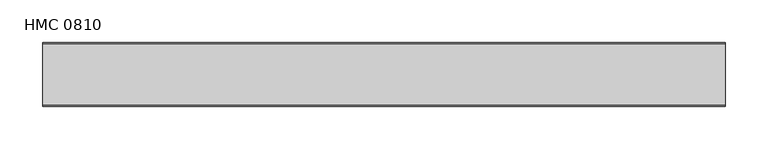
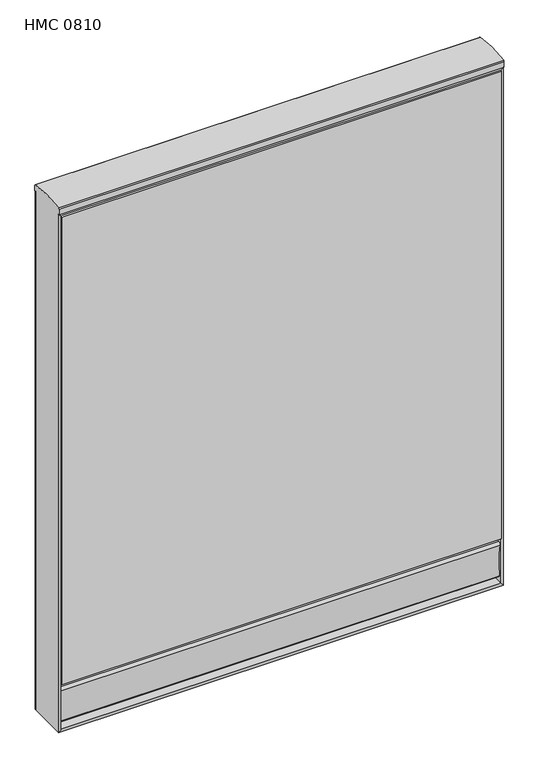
"""IFC4 building model written with IfcOpenShell, lengths in millimetres: furniture geometry, Mobiliário_MobiliáriodeEscritório_LinhaHabitat_PainelHabitatCego-Melamina_Marelli : HMC 0810."""

from ifc_helpers import new_model, si_unit, point, frame, frame_2d, origin, place, context, project, spatial, polyline, circle_curve, ellipse_curve, trimmed, segment, composite_curve, outline, extrude, source, transform, mapped, element, save
from ifc_brep_helpers import plane_surface, cylinder_surface, advanced_brep


def hmc_0810_8c3ba47c(model_context):
    return source(origin(), model_context, "Body", "SolidModel", [
        extrude(outline(composite_curve([segment(polyline([(55.0, 90.0), (55.0, 80.0), (65.980067, 80.0)]), True, "CONTINUOUS"), segment(trimmed(circle_curve(frame_2d((65.980067, 75.980067)), 4.019933), [point((65.980067, 80.0))], [point((69.831007, 74.8267575))], False, "CARTESIAN"), True, "CONTINUOUS"), segment(trimmed(circle_curve(frame_2d((200.7096213, 43.9493843)), 134.4716471), [point((69.831007, 74.8267575))], [point((68.9861321, 16.9022723))], True, "CARTESIAN"), True, "CONTINUOUS"), segment(trimmed(circle_curve(frame_2d((67.0270055, 16.5)), 2.0), [point((68.9861321, 16.9022723))], [point((67.0270055, 14.5))], False, "CARTESIAN"), True, "CONTINUOUS"), segment(polyline([(67.0270055, 14.5), (55.0, 14.5), (55.0, 4.5), (20.0, 4.5), (20.0, 14.5), (7.9729945, 14.5)]), True, "CONTINUOUS"), segment(trimmed(circle_curve(frame_2d((7.9729945, 16.5)), 2.0), [point((7.9729945, 14.5))], [point((6.0138679, 16.9022723))], False, "CARTESIAN"), True, "CONTINUOUS"), segment(trimmed(circle_curve(frame_2d((-125.7096213, 43.9493843)), 134.4716471), [point((6.0138679, 16.9022723))], [point((5.168993, 74.8267575))], True, "CARTESIAN"), True, "CONTINUOUS"), segment(trimmed(circle_curve(frame_2d((9.019933, 75.980067)), 4.019933), [point((5.168993, 74.8267575))], [point((9.019933, 80.0))], False, "CARTESIAN"), True, "CONTINUOUS"), segment(polyline([(9.019933, 80.0), (20.0, 80.0), (20.0, 90.0), (55.0, 90.0)]), True, "CONTINUOUS")], self_intersect=False)), frame((4.5, 0.0, 0.0), z_axis=(1.0, 0.0, 0.0), x_axis=(0.0, 1.0, 0.0)), (0.0, 0.0, 1.0), 791.0),
        advanced_brep(
        [(0.0, 0.0, 984.4135569), (0.0, 0.0, 994.184829), (0.0, 1.4147018, 996.2946718), (0.0, 73.7415241, 996.2666026), (0.0, 75.0, 994.2721511), (0.0, 75.0, 984.4135569), (0.0, 72.75, 984.4135569), (0.0, 72.75, 0.0), (0.0, 2.25, 0.0), (0.0, 2.25, 984.4135569), (800.0, 75.0, 984.4135569), (800.0, 75.0, 994.2721511), (800.0, 73.7415241, 996.2666026), (800.0, 1.4147018, 996.2946718), (800.0, 0.0, 994.184829), (800.0, 0.0, 984.4135569), (800.0, 2.25, 984.4135569), (800.0, 2.25, 0.0), (800.0, 72.75, 0.0), (800.0, 72.75, 984.4135569), (4.5, 72.75, 4.5), (795.5, 72.75, 4.5), (795.5, 2.25, 4.5), (4.5, 2.25, 4.5), (795.5, 72.75, 979.9135569), (795.5, 2.25, 979.9135569), (4.5, 72.75, 979.9135569), (4.5, 2.25, 979.9135569)],
        [
            (0, 1),
            (1, 2, circle_curve(frame((0.0, 2.2806283, 994.184829), z_axis=(-1.0, 0.0, 0.0), x_axis=(0.0, 1.0, 0.0)), 2.2806283)),
            (2, 3, circle_curve(frame((0.0, 37.5106051, 822.3310283), z_axis=(-1.0, 0.0, 0.0), x_axis=(0.0, 1.0, 0.0)), 177.6689717)),
            (3, 4, circle_curve(frame((0.0, 72.7903437, 994.2721511), z_axis=(-1.0, 0.0, 0.0), x_axis=(0.0, 1.0, 0.0)), 2.2096563)),
            (4, 5),
            (5, 6),
            (6, 7),
            (7, 8),
            (8, 9),
            (9, 0),
            (10, 11),
            (11, 12, circle_curve(frame((800.0, 72.7903437, 994.2721511), z_axis=(1.0, 0.0, 0.0), x_axis=(0.0, 1.0, 0.0)), 2.2096563)),
            (12, 13, circle_curve(frame((800.0, 37.5106051, 822.3310283), z_axis=(1.0, 0.0, 0.0), x_axis=(0.0, 1.0, 0.0)), 177.6689717)),
            (13, 14, circle_curve(frame((800.0, 2.2806283, 994.184829), z_axis=(1.0, 0.0, 0.0), x_axis=(0.0, 1.0, 0.0)), 2.2806283)),
            (14, 15),
            (15, 16),
            (16, 17),
            (17, 18),
            (18, 19),
            (19, 10),
            (4, 11),
            (10, 5),
            (3, 12),
            (2, 13),
            (1, 14),
            (0, 15),
            (19, 6),
            (9, 16),
            (7, 20, ellipse_curve(frame((2.25, 72.75, 2.25), z_axis=(0.7071067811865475, 0.0, -0.7071067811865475), x_axis=(-0.7071067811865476, 0.0, -0.7071067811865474)), 3.1819805, 2.25)),
            (20, 21),
            (21, 18, ellipse_curve(frame((797.75, 72.75, 2.25), z_axis=(-0.7071067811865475, 0.0, -0.7071067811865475), x_axis=(-0.7071067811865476, 0.0, 0.7071067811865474)), 3.1819805, 2.25)),
            (18, 7),
            (17, 8),
            (17, 22, ellipse_curve(frame((797.75, 2.25, 2.25), z_axis=(-0.7071067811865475, 0.0, -0.7071067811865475), x_axis=(-0.7071067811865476, 0.0, 0.7071067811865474)), 3.1819805, 2.25)),
            (22, 23),
            (23, 8, ellipse_curve(frame((2.25, 2.25, 2.25), z_axis=(0.7071067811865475, 0.0, -0.7071067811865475), x_axis=(-0.7071067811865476, 0.0, -0.7071067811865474)), 3.1819805, 2.25)),
            (20, 23),
            (22, 21),
            (21, 24),
            (24, 19, ellipse_curve(frame((797.75, 72.75, 982.1635569), z_axis=(0.7071067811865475, 0.0, -0.7071067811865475), x_axis=(-0.7071067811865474, 0.0, -0.7071067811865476)), 3.1819805, 2.25)),
            (16, 25, ellipse_curve(frame((797.75, 2.25, 982.1635569), z_axis=(0.7071067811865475, 0.0, -0.7071067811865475), x_axis=(-0.7071067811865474, 0.0, -0.7071067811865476)), 3.1819805, 2.25)),
            (25, 22),
            (25, 24),
            (24, 26),
            (26, 6, ellipse_curve(frame((2.25, 72.75, 982.1635569), z_axis=(0.7071067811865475, 0.0, 0.7071067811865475), x_axis=(0.7071067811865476, 0.0, -0.7071067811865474)), 3.1819805, 2.25)),
            (9, 27, ellipse_curve(frame((2.25, 2.25, 982.1635569), z_axis=(0.7071067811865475, 0.0, 0.7071067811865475), x_axis=(0.7071067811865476, 0.0, -0.7071067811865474)), 3.1819805, 2.25)),
            (27, 25),
            (27, 26),
            (26, 20),
            (23, 27),
        ],
        [
            plane_surface(frame((0.0, 75.0, 994.2721511), z_axis=(-1.0, 0.0, 0.0), x_axis=(0.0, 0.0, -1.0))),
            plane_surface(frame((800.0, 75.0, 994.2721511), z_axis=(1.0, 0.0, 0.0), x_axis=(0.0, 0.0, 1.0))),
            plane_surface(frame((800.0, 75.0, 984.4135569), z_axis=(0.0, 1.0, 0.0), x_axis=(-1.0, 0.0, 0.0))),
            cylinder_surface(frame((0.0, 72.7903437, 994.2721511), z_axis=(1.0, 0.0, 0.0), x_axis=(0.0, 1.0, 0.0)), 2.2096563),
            cylinder_surface(frame((0.0, 37.5106051, 822.3310283), z_axis=(1.0, 0.0, 0.0), x_axis=(0.0, 1.0, 0.0)), 177.6689717),
            cylinder_surface(frame((0.0, 2.2806283, 994.184829), z_axis=(1.0, 0.0, 0.0), x_axis=(0.0, 1.0, 0.0)), 2.2806283),
            plane_surface(frame((800.0, 0.0, 994.184829), z_axis=(0.0, -1.0, 0.0), x_axis=(-1.0, 0.0, 0.0))),
            plane_surface(frame((800.0, 0.0, 984.4135569), z_axis=(0.0, 0.0, -1.0), x_axis=(-1.0, 0.0, 0.0))),
            cylinder_surface(frame((0.0, 72.75, 2.25), z_axis=(-1.0, 0.0, 0.0), x_axis=(0.0, -1.0, 0.0)), 2.25),
            plane_surface(frame((0.0, 72.75, 0.0), z_axis=(0.0, 0.0, -1.0), x_axis=(1.0, 0.0, 0.0))),
            cylinder_surface(frame((0.0, 2.25, 2.25), z_axis=(-1.0, 0.0, 0.0), x_axis=(0.0, -1.0, 0.0)), 2.25),
            plane_surface(frame((4.5, 2.25, 4.5), z_axis=(0.0, 0.0, 1.0), x_axis=(1.0, 0.0, 0.0))),
            cylinder_surface(frame((797.75, 72.75, 0.0), z_axis=(0.0, 0.0, -1.0), x_axis=(0.0, -1.0, 0.0)), 2.25),
            cylinder_surface(frame((797.75, 2.25, 0.0), z_axis=(0.0, 0.0, -1.0), x_axis=(0.0, -1.0, 0.0)), 2.25),
            plane_surface(frame((795.5, 2.25, 4.5), z_axis=(-1.0, 0.0, 0.0), x_axis=(0.0, 0.0, 1.0))),
            cylinder_surface(frame((800.0, 72.75, 982.1635569), z_axis=(1.0, 0.0, 0.0), x_axis=(0.0, -1.0, 0.0)), 2.25),
            cylinder_surface(frame((800.0, 2.25, 982.1635569), z_axis=(1.0, 0.0, 0.0), x_axis=(0.0, -1.0, 0.0)), 2.25),
            plane_surface(frame((795.5, 2.25, 979.9135569), z_axis=(0.0, 0.0, -1.0), x_axis=(-1.0, 0.0, 0.0))),
            cylinder_surface(frame((2.25, 72.75, 984.4135569), z_axis=(0.0, 0.0, 1.0), x_axis=(0.0, -1.0, 0.0)), 2.25),
            cylinder_surface(frame((2.25, 2.25, 984.4135569), z_axis=(0.0, 0.0, 1.0), x_axis=(0.0, -1.0, 0.0)), 2.25),
            plane_surface(frame((4.5, 2.25, 979.9135569), z_axis=(1.0, 0.0, 0.0), x_axis=(0.0, 0.0, -1.0))),
        ],
        [
            (0, [[1, 2, 3, 4, 5, 6, 7, 8, 9, 10]]),
            (1, [[11, 12, 13, 14, 15, 16, 17, 18, 19, 20]]),
            (2, [[-5, 21, -11, 22]]),
            (3, [[-4, 23, -12, -21]]),
            (4, [[-3, 24, -13, -23]]),
            (5, [[-2, 25, -14, -24]]),
            (6, [[-1, 26, -15, -25]]),
            (7, [[-22, -20, 27, -6]]),
            (7, [[-26, -10, 28, -16]]),
            (8, [[29, 30, 31, 32]]),
            (9, [[-32, -18, 33, -8]]),
            (10, [[-33, 34, 35, 36]]),
            (11, [[-30, 37, -35, 38]]),
            (12, [[-31, 39, 40, -19]]),
            (13, [[-34, -17, 41, 42]]),
            (14, [[-38, -42, 43, -39]]),
            (15, [[-40, 44, 45, -27]]),
            (16, [[-41, -28, 46, 47]]),
            (17, [[-43, -47, 48, -44]]),
            (18, [[-29, -7, -45, 49]]),
            (19, [[-36, 50, -46, -9]]),
            (20, [[-37, -49, -48, -50]]),
        ],
    ),
        extrude(outline(composite_curve([segment(trimmed(circle_curve(frame_2d((72.75, 977.6635569)), 2.25), [point((72.75, 979.9135569))], [point((75.0, 977.6635569))], False, "CARTESIAN"), True, "CONTINUOUS"), segment(polyline([(75.0, 977.6635569), (75.0, 90.0), (0.0, 90.0), (0.0, 977.6635569)]), True, "CONTINUOUS"), segment(trimmed(circle_curve(frame_2d((2.25, 977.6635569)), 2.25), [point((0.0, 977.6635569))], [point((2.25, 979.9135569))], False, "CARTESIAN"), True, "CONTINUOUS"), segment(polyline([(2.25, 979.9135569), (72.75, 979.9135569)]), True, "CONTINUOUS")], self_intersect=False)), frame((4.5, 0.0, 0.0), z_axis=(1.0, 0.0, 0.0), x_axis=(0.0, 1.0, 0.0)), (0.0, 0.0, 1.0), 791.0),
    ])


if __name__ == "__main__":
    model = new_model("IFC4")
    model_context = context("Model", 3, world=origin())
    ifc_project = project(units=[si_unit("LENGTHUNIT", "METRE", prefix="MILLI")], contexts=[model_context])
    site = spatial("IfcSite", under=ifc_project)
    building = spatial("IfcBuilding", under=site)
    placement = place(None, origin())
    hmc_0810_shape = hmc_0810_8c3ba47c(model_context)
    element("IfcFurniture", 1, ObjectType="Mobiliário_MobiliáriodeEscritório_LinhaHabitat_PainelHabitatCego-Melamina_Marelli : HMC 0810", at=placement, inside=building, context=model_context, shape_type="MappedRepresentation", body=[
        mapped(hmc_0810_shape, transform((0.0, 0.0, 0.0), x_axis=(1.0, 0.0, 0.0), y_axis=(0.0, 1.0, 0.0), z_axis=(0.0, 0.0, 1.0))),
    ])
    save(model, "model.ifc")
